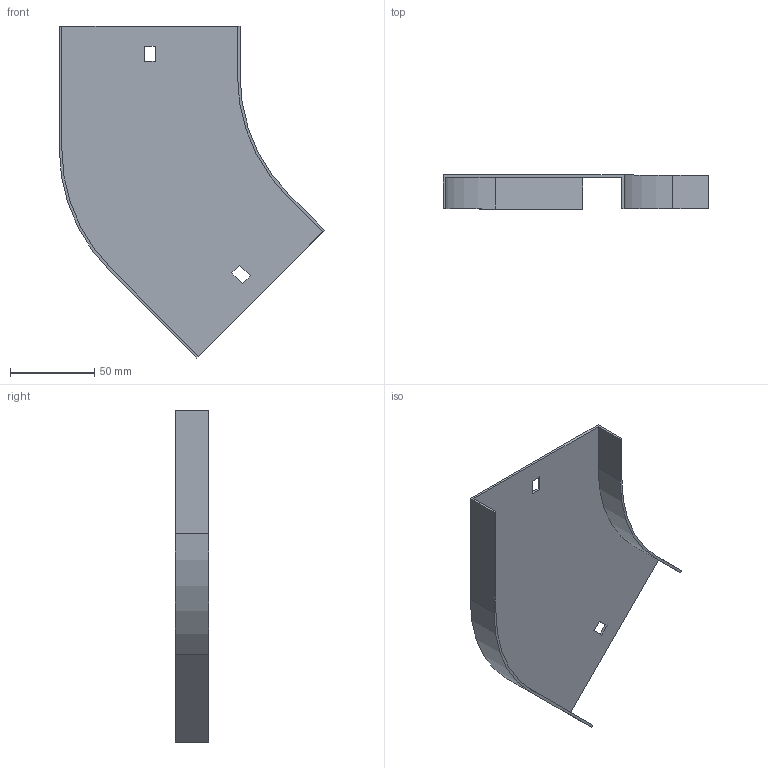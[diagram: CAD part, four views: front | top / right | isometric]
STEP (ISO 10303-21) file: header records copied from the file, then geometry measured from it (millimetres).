
FILE_DESCRIPTION (( 'STEP AP214' ), '1' );
FILE_NAME ('11G1P100.step', '2025-02-21T12:45:49', ( '' ), ( '' ), 'SwSTEP 2.0', 'SolidWorks 2023', '' );
FILE_SCHEMA (( 'AUTOMOTIVE_DESIGN' ));
Length unit declared in the file: millimetre
Products named in the file (1): 11G1P100
Bounding box: 157.06 x 20 x 196.52 mm (x, y, z)
Volume: 39725.2 mm3; surface area: 54036.8 mm2
Topology: 1 solids, 1 shells, 26 faces, 72 edges, 48 vertices
Faces by surface type: plane 22, cylinder 4
Entity records: 855 total; most frequent: CARTESIAN_POINT 147, ORIENTED_EDGE 144, DIRECTION 134, EDGE_CURVE 72, LINE 64, VECTOR 64, VERTEX_POINT 48, AXIS2_PLACEMENT_3D 35
